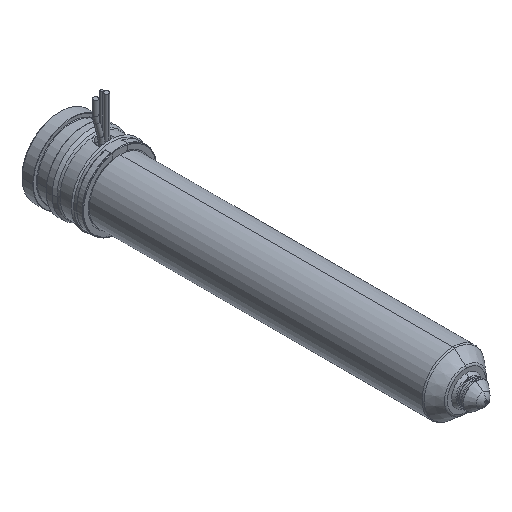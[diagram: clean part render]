
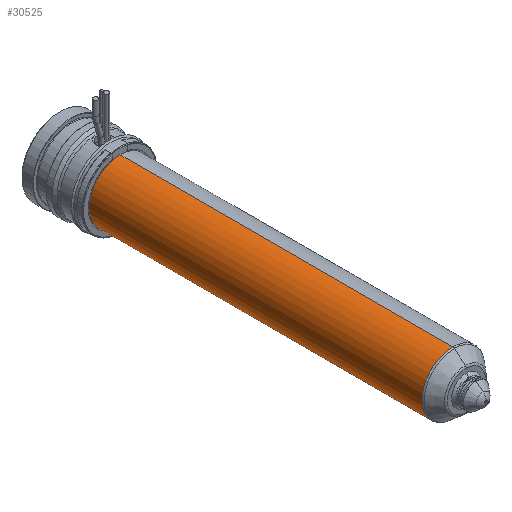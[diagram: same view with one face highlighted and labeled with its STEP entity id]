
A CAD part, isometric view. The second image highlights one B-rep face of the part: STEP entity #30525.
In plain terms, the highlighted cylindrical face has radius 12 mm (diameter 24 mm), a partial arc.
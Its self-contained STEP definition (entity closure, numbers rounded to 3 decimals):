
#29916=CARTESIAN_POINT('',(0.,-153.736,0.));
#29917=DIRECTION('',(0.,-1.,0.));
#29918=DIRECTION('',(0.,0.,1.));
#29919=AXIS2_PLACEMENT_3D('',#29916,#29917,#29918);
#29924=CARTESIAN_POINT('',(0.,-24.,0.));
#29925=DIRECTION('',(0.,1.,0.));
#29926=DIRECTION('',(0.,0.,-1.));
#29927=AXIS2_PLACEMENT_3D('',#29924,#29925,#29926);
#29932=DIRECTION('',(0.,1.,0.));
#29933=VECTOR('',#29932,129.736);
#29934=CARTESIAN_POINT('',(0.,-153.736,12.));
#29935=LINE('',#29934,#29933);
#29947=DIRECTION('',(0.,1.,0.));
#29948=VECTOR('',#29947,129.736);
#29949=CARTESIAN_POINT('',(0.,-153.736,-12.));
#29950=LINE('',#29949,#29948);
#30130=CARTESIAN_POINT('',(0.,-153.736,12.));
#30131=CARTESIAN_POINT('',(0.,-24.,12.));
#30132=VERTEX_POINT('',#30130);
#30133=VERTEX_POINT('',#30131);
#30134=CARTESIAN_POINT('',(0.,-153.736,-12.));
#30135=CARTESIAN_POINT('',(0.,-24.,-12.));
#30136=VERTEX_POINT('',#30134);
#30137=VERTEX_POINT('',#30135);
#30511=CARTESIAN_POINT('',(0.,-12.625,0.));
#30512=DIRECTION('',(0.,-1.,0.));
#30513=DIRECTION('',(0.,0.,1.));
#30514=AXIS2_PLACEMENT_3D('',#30511,#30512,#30513);
#30515=CYLINDRICAL_SURFACE('',#30514,12.);
#30517=ORIENTED_EDGE('',*,*,#30516,.F.);
#30518=ORIENTED_EDGE('',*,*,#30506,.T.);
#30520=ORIENTED_EDGE('',*,*,#30519,.T.);
#30522=ORIENTED_EDGE('',*,*,#30521,.T.);
#30523=EDGE_LOOP('',(#30517,#30518,#30520,#30522));
#30524=FACE_OUTER_BOUND('',#30523,.F.);
#30525=ADVANCED_FACE('',(#30524),#30515,.T.);
#29920=CIRCLE('',#29919,12.);
#29928=CIRCLE('',#29927,12.);
#30506=EDGE_CURVE('',#30132,#30136,#29920,.T.);
#30516=EDGE_CURVE('',#30132,#30133,#29935,.T.);
#30519=EDGE_CURVE('',#30136,#30137,#29950,.T.);
#30521=EDGE_CURVE('',#30137,#30133,#29928,.T.);
